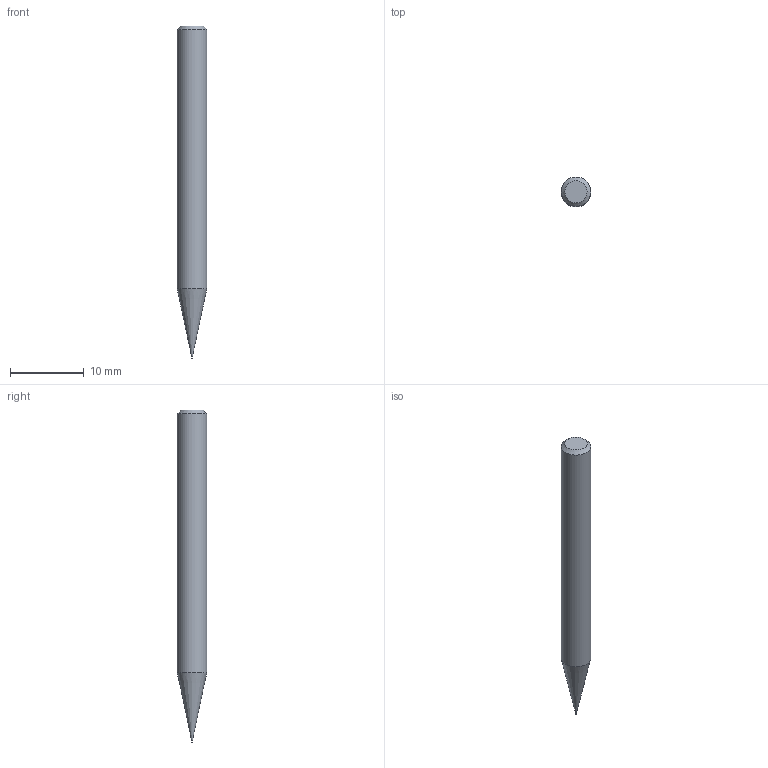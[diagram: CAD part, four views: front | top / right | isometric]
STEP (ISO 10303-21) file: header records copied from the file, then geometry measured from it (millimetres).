
FILE_DESCRIPTION((''),'2;1');
FILE_NAME('C:\Users\nsx150\AppData\Local\Temp\Mastercam 2021\E36A1X9CCL\TEMP.step','2023-04-21T15:12:00',(''),(''),'STEP Write','Mastercam 2021 ... CNC Software, Inc.','');
FILE_SCHEMA(('AUTOMOTIVE_DESIGN'));
Length unit declared in the file: millimetre
Products named in the file (1): None
Bounding box: 4 x 4 x 45 mm (x, y, z)
Volume: 485.7 mm3; surface area: 516.7 mm2
Topology: 2 solids, 2 shells, 8 faces, 10 edges, 6 vertices
Faces by surface type: plane 4, cylinder 2, cone 2
Full cylindrical faces by diameter (mm): 0.1 x1, 4 x1
Entity records: 190 total; most frequent: DIRECTION 32, CARTESIAN_POINT 22, AXIS2_PLACEMENT_3D 16, ORIENTED_EDGE 12, EDGE_LOOP 12, STYLED_ITEM 11, ADVANCED_FACE 8, VERTEX_POINT 6
